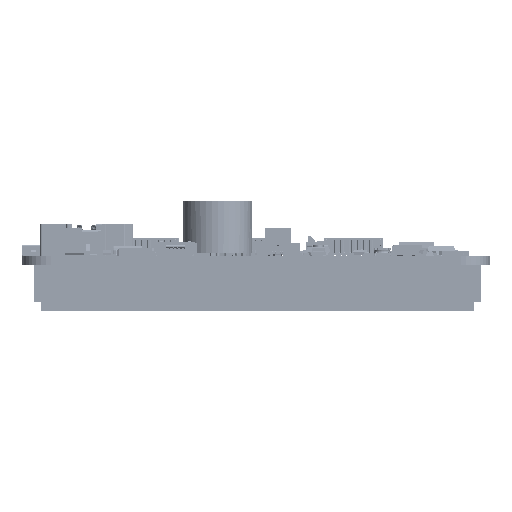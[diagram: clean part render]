
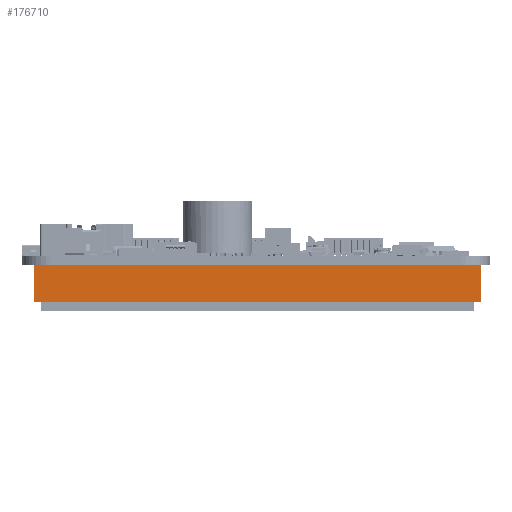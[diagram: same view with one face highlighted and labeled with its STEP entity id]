
A CAD part, left-side view. The second image highlights one B-rep face of the part: STEP entity #176710.
In plain terms, the highlighted planar face has unit normal (-1, 0, 0) as drawn and (1, 0, 0) by its records, which use the part's own axes.
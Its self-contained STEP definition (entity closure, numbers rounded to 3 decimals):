
#12079=FACE_OUTER_BOUND('',#21889,.T.);
#21889=EDGE_LOOP('',(#120001,#120002,#120003,#120004));
#34602=LINE('',#248935,#55692);
#34603=LINE('',#248937,#55693);
#34604=LINE('',#248939,#55694);
#34605=LINE('',#248940,#55695);
#55692=VECTOR('',#203336,10.);
#55693=VECTOR('',#203337,10.);
#55694=VECTOR('',#203338,10.);
#55695=VECTOR('',#203339,10.);
#76715=VERTEX_POINT('',#248933);
#76716=VERTEX_POINT('',#248934);
#76717=VERTEX_POINT('',#248936);
#76718=VERTEX_POINT('',#248938);
#93659=EDGE_CURVE('',#76715,#76716,#34602,.T.);
#93660=EDGE_CURVE('',#76715,#76717,#34603,.T.);
#93661=EDGE_CURVE('',#76718,#76717,#34604,.T.);
#93662=EDGE_CURVE('',#76716,#76718,#34605,.T.);
#120001=ORIENTED_EDGE('',*,*,#93659,.F.);
#120002=ORIENTED_EDGE('',*,*,#93660,.T.);
#120003=ORIENTED_EDGE('',*,*,#93661,.F.);
#120004=ORIENTED_EDGE('',*,*,#93662,.F.);
#169205=PLANE('',#189870);
#176710=ADVANCED_FACE('',(#12079),#169205,.T.);
#189870=AXIS2_PLACEMENT_3D('',#248932,#203334,#203335);
#203334=DIRECTION('center_axis',(1.,0.,0.));
#203335=DIRECTION('ref_axis',(0.,-1.,0.));
#203336=DIRECTION('',(0.,1.,0.));
#203337=DIRECTION('',(0.,0.,-1.));
#203338=DIRECTION('',(0.,-1.,0.));
#203339=DIRECTION('',(0.,0.,-1.));
#248932=CARTESIAN_POINT('Origin',(61.2,38.65,8.6));
#248933=CARTESIAN_POINT('',(61.2,-38.65,8.6));
#248934=CARTESIAN_POINT('',(61.2,38.65,8.6));
#248935=CARTESIAN_POINT('',(61.2,-38.65,8.6));
#248936=CARTESIAN_POINT('',(61.2,-38.65,2.3));
#248937=CARTESIAN_POINT('',(61.2,-38.65,8.6));
#248938=CARTESIAN_POINT('',(61.2,38.65,2.3));
#248939=CARTESIAN_POINT('',(61.2,-38.65,2.3));
#248940=CARTESIAN_POINT('',(61.2,38.65,8.6));
